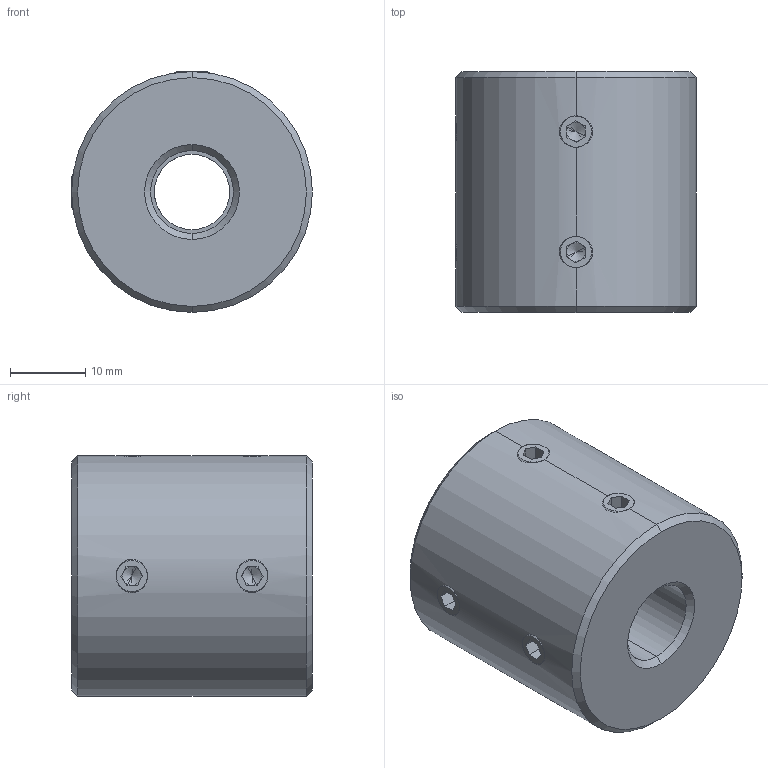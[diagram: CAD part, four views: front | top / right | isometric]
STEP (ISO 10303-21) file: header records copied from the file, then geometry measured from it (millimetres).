
FILE_DESCRIPTION (( 'STEP AP214' ), '1' );
FILE_NAME ('LL-D-D32L32-10-11½¨Ä£.STEP', '2022-07-22T11:28:37', ( '' ), ( '' ), 'SwSTEP 2.0', 'SolidWorks 2022', '' );
FILE_SCHEMA (( 'AUTOMOTIVE_DESIGN' ));
Length unit declared in the file: millimetre
Products named in the file (1): LL-D-D32L32-10-11膘耀
Bounding box: 32 x 32 x 32 mm (x, y, z)
Volume: 22665.9 mm3; surface area: 5854.1 mm2
Topology: 1 solids, 1 shells, 113 faces, 286 edges, 176 vertices
Faces by surface type: plane 59, cone 32, cylinder 22
Entity records: 3756 total; most frequent: CARTESIAN_POINT 1046, DIRECTION 558, ORIENTED_EDGE 556, EDGE_CURVE 278, AXIS2_PLACEMENT_3D 206, VERTEX_POINT 176, VECTOR 146, LINE 146
